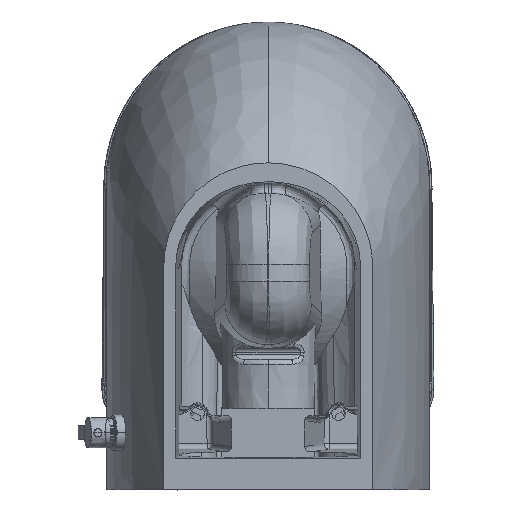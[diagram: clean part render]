
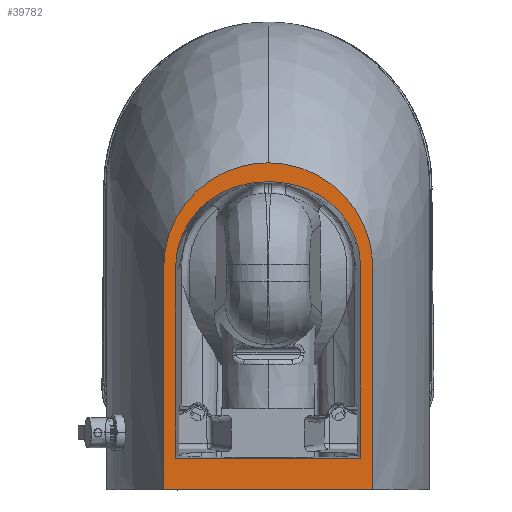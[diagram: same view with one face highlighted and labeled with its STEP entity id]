
A CAD part, front view. The second image highlights one B-rep face of the part: STEP entity #39782.
In plain terms, the highlighted planar face has unit normal (0, -1, 0).
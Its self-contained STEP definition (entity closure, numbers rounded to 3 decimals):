
#2496 = VERTEX_POINT ( 'NONE', #11071 ) ;
#7459 = CARTESIAN_POINT ( 'NONE',  ( 0., -299.999, 68.001 ) ) ;
#8378 = CARTESIAN_POINT ( 'NONE',  ( 114.999, -299.999, -291.997 ) ) ;
#9146 = CARTESIAN_POINT ( 'NONE',  ( -102.125, -299.999, -28.613 ) ) ;
#9962 = CARTESIAN_POINT ( 'NONE',  ( 22.575, -299.999, 66.519 ) ) ;
#10066 = CARTESIAN_POINT ( 'NONE',  ( -101.914, -299.999, -257.055 ) ) ;
#11071 = CARTESIAN_POINT ( 'NONE',  ( 101.914, -299.999, -257.055 ) ) ;
#11936 = EDGE_CURVE ( 'NONE', #71024, #2496, #121063, .T. ) ;
#12809 = CARTESIAN_POINT ( 'NONE',  ( -50., -299.999, 37.165 ) ) ;
#13427 = CARTESIAN_POINT ( 'NONE',  ( -106.906, -299.999, -2.646 ) ) ;
#15181 = VERTEX_POINT ( 'NONE', #18798 ) ;
#16388 = B_SPLINE_CURVE_WITH_KNOTS ( 'NONE', 3,
 ( #118860, #19986, #20935, #172851, #21869, #61442, #150837, #19065, #164976, #176321, #47315, #164058, #162197, #119788 ),
 .UNSPECIFIED., .F., .F.,
 ( 4, 3, 1, 1, 1, 1, 1, 1, 1, 4 ),
 ( 0., 0.003, 0.164, 0.197, 0.231, 0.264, 0.289, 0.314, 0.339, 0.364 ),
 .UNSPECIFIED. ) ;
#16823 = EDGE_CURVE ( 'NONE', #2496, #101140, #16388, .T. ) ;
#18798 = CARTESIAN_POINT ( 'NONE',  ( -114.999, -299.999, -46.999 ) ) ;
#19065 = CARTESIAN_POINT ( 'NONE',  ( 102.125, -299.999, -28.613 ) ) ;
#19986 = CARTESIAN_POINT ( 'NONE',  ( 101.914, -299.999, -256.044 ) ) ;
#20935 = CARTESIAN_POINT ( 'NONE',  ( 101.915, -299.999, -255.034 ) ) ;
#21869 = CARTESIAN_POINT ( 'NONE',  ( 101.93, -299.999, -200.828 ) ) ;
#23165 = CARTESIAN_POINT ( 'NONE',  ( 81.801, -299.999, 34.882 ) ) ;
#23269 = CARTESIAN_POINT ( 'NONE',  ( -8.51, -299.999, 47.261 ) ) ;
#24195 = CARTESIAN_POINT ( 'NONE',  ( -101.914, -299.999, -256.044 ) ) ;
#24305 = AXIS2_PLACEMENT_3D ( 'NONE', #134250, #80544, #106929 ) ;
#30330 = CARTESIAN_POINT ( 'NONE',  ( -114.999, -299.999, -291.997 ) ) ;
#31779 = CARTESIAN_POINT ( 'NONE',  ( 114.999, -299.999, -110.918 ) ) ;
#38160 = DIRECTION ( 'NONE',  ( 1., 0., 0. ) ) ;
#38313 = CARTESIAN_POINT ( 'NONE',  ( -101.915, -299.999, -254.023 ) ) ;
#39782 = ADVANCED_FACE ( 'NONE', ( #91868, #93731 ), #162538, .F. ) ;
#41159 = B_SPLINE_CURVE_WITH_KNOTS ( 'NONE', 3,
 ( #98481, #23269, #52469, #12809, #70270, #80700, #9146, #123989, #181472, #167322, #38313, #153179, #24195, #10066 ),
 .UNSPECIFIED., .F., .F.,
 ( 4, 1, 1, 1, 1, 1, 1, 1, 3, 4 ),
 ( 0., 0.025, 0.05, 0.075, 0.099, 0.133, 0.166, 0.199, 0.359, 0.363 ),
 .UNSPECIFIED. ) ;
#41317 = VERTEX_POINT ( 'NONE', #8378 ) ;
#41568 = VERTEX_POINT ( 'NONE', #84326 ) ;
#41820 = VECTOR ( 'NONE', #38160, 1000. ) ;
#42189 = LINE ( 'NONE', #31779, #60737 ) ;
#42289 = ORIENTED_EDGE ( 'NONE', *, *, #16823, .F. ) ;
#46019 = ORIENTED_EDGE ( 'NONE', *, *, #64513, .F. ) ;
#47315 = CARTESIAN_POINT ( 'NONE',  ( 50., -299.999, 37.165 ) ) ;
#49578 = CARTESIAN_POINT ( 'NONE',  ( 113.51, -299.999, -24.373 ) ) ;
#51436 = CARTESIAN_POINT ( 'NONE',  ( 44.273, -299.999, 59.939 ) ) ;
#52340 = ORIENTED_EDGE ( 'NONE', *, *, #151968, .F. ) ;
#52469 = CARTESIAN_POINT ( 'NONE',  ( -25.587, -299.999, 45.516 ) ) ;
#52969 = ORIENTED_EDGE ( 'NONE', *, *, #108148, .F. ) ;
#60737 = VECTOR ( 'NONE', #86402, 1000. ) ;
#61442 = CARTESIAN_POINT ( 'NONE',  ( 101.982, -299.999, -136.665 ) ) ;
#61589 = ORIENTED_EDGE ( 'NONE', *, *, #79267, .F. ) ;
#64513 = EDGE_CURVE ( 'NONE', #41317, #41568, #116489, .T. ) ;
#65536 = CARTESIAN_POINT ( 'NONE',  ( 0., -299.999, 68.001 ) ) ;
#66480 = CARTESIAN_POINT ( 'NONE',  ( 96.198, -299.999, 17.359 ) ) ;
#70270 = CARTESIAN_POINT ( 'NONE',  ( -71.381, -299.999, 23.025 ) ) ;
#70883 = CARTESIAN_POINT ( 'NONE',  ( -96.198, -299.999, 17.359 ) ) ;
#71024 = VERTEX_POINT ( 'NONE', #159355 ) ;
#77134 = EDGE_CURVE ( 'NONE', #107173, #41317, #42189, .T. ) ;
#77821 = CARTESIAN_POINT ( 'NONE',  ( 114.999, -299.999, -39.454 ) ) ;
#79267 = EDGE_CURVE ( 'NONE', #101140, #71024, #41159, .T. ) ;
#80544 = DIRECTION ( 'NONE',  ( 0., 1., 0. ) ) ;
#80700 = CARTESIAN_POINT ( 'NONE',  ( -90.17, -299.999, 1.049 ) ) ;
#84326 = CARTESIAN_POINT ( 'NONE',  ( -114.999, -299.999, -291.997 ) ) ;
#85000 = CARTESIAN_POINT ( 'NONE',  ( -113.51, -299.999, -24.373 ) ) ;
#86402 = DIRECTION ( 'NONE',  ( 0., 0., -1. ) ) ;
#91868 = FACE_BOUND ( 'NONE', #145778, .T. ) ;
#93731 = FACE_OUTER_BOUND ( 'NONE', #152703, .T. ) ;
#98481 = CARTESIAN_POINT ( 'NONE',  ( 0., -299.999, 47.261 ) ) ;
#98540 = ORIENTED_EDGE ( 'NONE', *, *, #116424, .F. ) ;
#99107 = CARTESIAN_POINT ( 'NONE',  ( -114.999, -299.999, -46.999 ) ) ;
#101140 = VERTEX_POINT ( 'NONE', #141745 ) ;
#102354 = CARTESIAN_POINT ( 'NONE',  ( 114.999, -299.999, -46.999 ) ) ;
#106929 = DIRECTION ( 'NONE',  ( 0., 0., 1. ) ) ;
#107173 = VERTEX_POINT ( 'NONE', #102354 ) ;
#107247 = CARTESIAN_POINT ( 'NONE',  ( -44.273, -299.999, 59.939 ) ) ;
#108148 = EDGE_CURVE ( 'NONE', #15181, #179189, #123450, .T. ) ;
#109117 = CARTESIAN_POINT ( 'NONE',  ( -64.269, -299.999, 49.257 ) ) ;
#109758 = CARTESIAN_POINT ( 'NONE',  ( 114.999, -299.999, -46.999 ) ) ;
#116424 = EDGE_CURVE ( 'NONE', #41568, #15181, #171615, .T. ) ;
#116489 = LINE ( 'NONE', #173959, #132499 ) ;
#118860 = CARTESIAN_POINT ( 'NONE',  ( 101.914, -299.999, -257.055 ) ) ;
#119788 = CARTESIAN_POINT ( 'NONE',  ( 0., -299.999, 47.261 ) ) ;
#121063 = LINE ( 'NONE', #123833, #41820 ) ;
#123450 = B_SPLINE_CURVE_WITH_KNOTS ( 'NONE', 3,
 ( #99107, #156570, #85000, #13427, #70883, #128281, #109117, #107247, #163796, #151497, #7459 ),
 .UNSPECIFIED., .F., .F.,
 ( 4, 1, 1, 1, 1, 1, 1, 1, 4 ),
 ( 0., 0.022, 0.045, 0.067, 0.09, 0.112, 0.135, 0.157, 0.18 ),
 .UNSPECIFIED. ) ;
#123833 = CARTESIAN_POINT ( 'NONE',  ( 0., -299.999, -257.055 ) ) ;
#123989 = CARTESIAN_POINT ( 'NONE',  ( -101.864, -299.999, -61.48 ) ) ;
#128281 = CARTESIAN_POINT ( 'NONE',  ( -81.801, -299.999, 34.882 ) ) ;
#129528 = ORIENTED_EDGE ( 'NONE', *, *, #11936, .F. ) ;
#132499 = VECTOR ( 'NONE', #160755, 1000. ) ;
#134250 = CARTESIAN_POINT ( 'NONE',  ( -114.999, -299.999, -291.997 ) ) ;
#139037 = VECTOR ( 'NONE', #174400, 1000. ) ;
#141745 = CARTESIAN_POINT ( 'NONE',  ( 0., -299.999, 47.261 ) ) ;
#143934 = CARTESIAN_POINT ( 'NONE',  ( 0., -299.999, 68.001 ) ) ;
#145778 = EDGE_LOOP ( 'NONE', ( #42289, #129528, #61589 ) ) ;
#150837 = CARTESIAN_POINT ( 'NONE',  ( 101.864, -299.999, -61.48 ) ) ;
#151497 = CARTESIAN_POINT ( 'NONE',  ( -7.527, -299.999, 68.001 ) ) ;
#151968 = EDGE_CURVE ( 'NONE', #179189, #107173, #178057, .T. ) ;
#152703 = EDGE_LOOP ( 'NONE', ( #170878, #52340, #52969, #98540, #46019 ) ) ;
#153179 = CARTESIAN_POINT ( 'NONE',  ( -101.915, -299.999, -255.034 ) ) ;
#156570 = CARTESIAN_POINT ( 'NONE',  ( -114.999, -299.999, -39.454 ) ) ;
#159355 = CARTESIAN_POINT ( 'NONE',  ( -101.914, -299.999, -257.055 ) ) ;
#160755 = DIRECTION ( 'NONE',  ( -1., 0., 0. ) ) ;
#162197 = CARTESIAN_POINT ( 'NONE',  ( 8.51, -299.999, 47.261 ) ) ;
#162538 = PLANE ( 'NONE',  #24305 ) ;
#163796 = CARTESIAN_POINT ( 'NONE',  ( -22.575, -299.999, 66.519 ) ) ;
#164058 = CARTESIAN_POINT ( 'NONE',  ( 25.587, -299.999, 45.516 ) ) ;
#164976 = CARTESIAN_POINT ( 'NONE',  ( 90.17, -299.999, 1.049 ) ) ;
#166302 = CARTESIAN_POINT ( 'NONE',  ( 64.269, -299.999, 49.257 ) ) ;
#167322 = CARTESIAN_POINT ( 'NONE',  ( -101.93, -299.999, -200.828 ) ) ;
#170878 = ORIENTED_EDGE ( 'NONE', *, *, #77134, .F. ) ;
#171615 = LINE ( 'NONE', #30330, #139037 ) ;
#172851 = CARTESIAN_POINT ( 'NONE',  ( 101.915, -299.999, -254.023 ) ) ;
#173959 = CARTESIAN_POINT ( 'NONE',  ( 0., -299.999, -291.997 ) ) ;
#174400 = DIRECTION ( 'NONE',  ( 0., 0., 1. ) ) ;
#176321 = CARTESIAN_POINT ( 'NONE',  ( 71.381, -299.999, 23.025 ) ) ;
#178057 = B_SPLINE_CURVE_WITH_KNOTS ( 'NONE', 3,
 ( #65536, #180434, #9962, #51436, #166302, #23165, #66480, #181367, #49578, #77821, #109758 ),
 .UNSPECIFIED., .F., .F.,
 ( 4, 1, 1, 1, 1, 1, 1, 1, 4 ),
 ( 0., 0.022, 0.045, 0.067, 0.09, 0.112, 0.135, 0.157, 0.18 ),
 .UNSPECIFIED. ) ;
#179189 = VERTEX_POINT ( 'NONE', #143934 ) ;
#180434 = CARTESIAN_POINT ( 'NONE',  ( 7.527, -299.999, 68.001 ) ) ;
#181367 = CARTESIAN_POINT ( 'NONE',  ( 106.906, -299.999, -2.646 ) ) ;
#181472 = CARTESIAN_POINT ( 'NONE',  ( -101.982, -299.999, -136.665 ) ) ;
